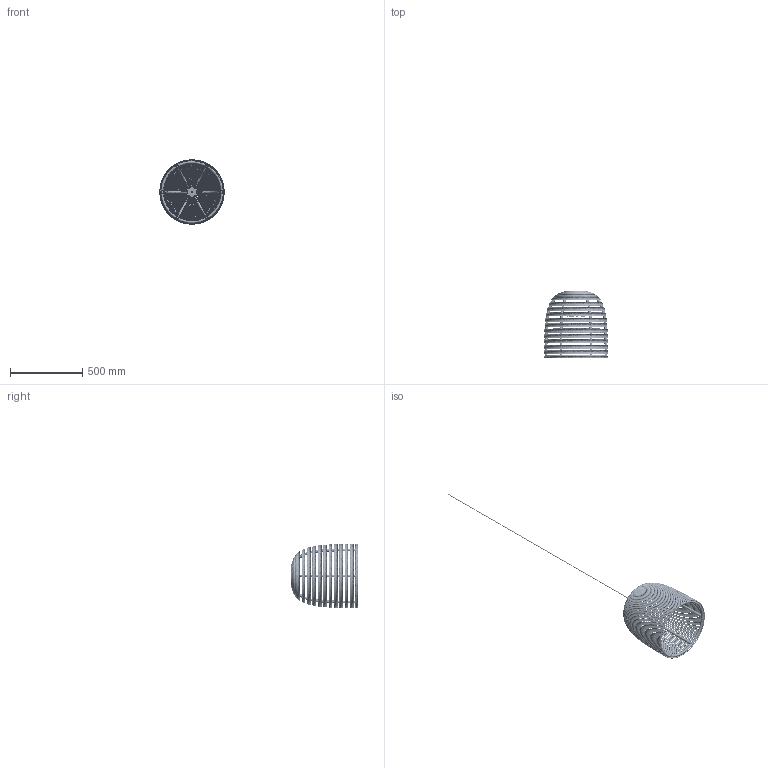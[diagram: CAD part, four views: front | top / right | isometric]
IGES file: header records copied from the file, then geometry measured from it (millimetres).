
Global section: file name: VincentSheppard_ViviLampMedium; native system: unknown; preprocessor: unknown; author: ict@vincentsheppard.com; organization: unknown; date: 20180518.145818; units: millimetre
Bounding box: 446 x 2303 x 446 mm (x, y, z)
Volume: 3475815.3 mm3; surface area: 1714575.2 mm2
Topology: 73 solids, 73 shells, 89 faces, 166 edges, 81 vertices
Faces by surface type: bspline 89
